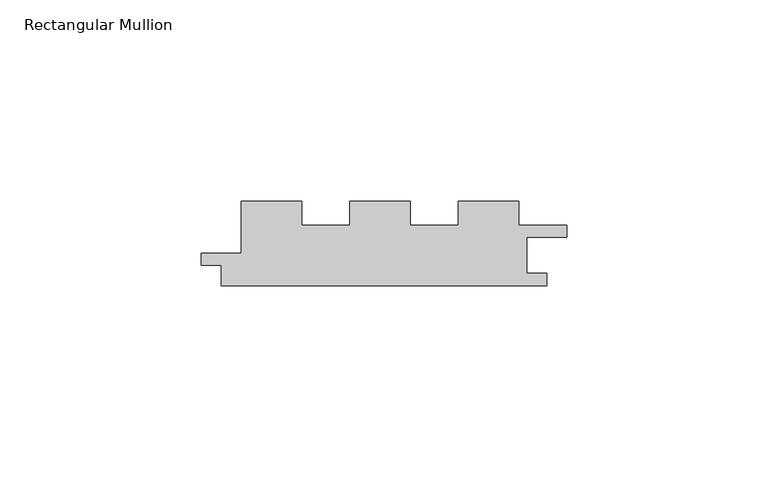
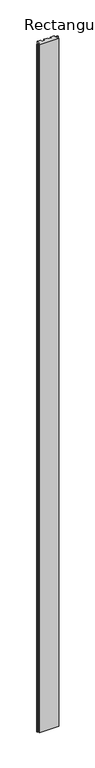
"""IFC4 building model written with IfcOpenShell, lengths in millimetres: member geometry, Rectangular Mullion : Cladding_Timber_Modinex_Castelation_81x21_AlaskanYellowCedar."""

from ifc_helpers import new_model, si_unit, frame, origin, place, context, project, spatial, polyline, outline, extrude, source, transform, mapped, element, save


def rectangular_mullion_624eee80(model_context):
    return source(origin(), model_context, "Body", "SweptSolid", [
        extrude(outline(polyline([(15.0481486, 15.0), (27.0304703, 15.0), (27.0304703, 21.0), (42.0304703, 21.0), (42.0304703, 15.0), (54.0152351, 15.0), (54.0152351, 21.0), (69.0152351, 21.0), (69.0152351, 15.0), (81.0, 15.0), (81.0, 12.0), (71.0, 12.0), (71.0, 3.0), (76.0481486, 3.0), (76.0481486, 0.0), (-4.9518514, 0.0), (-4.9518514, 5.0), (-9.9518514, 5.0), (-9.9518514, 8.0), (0.0, 8.0), (0.0, 21.0), (15.0481486, 21.0), (15.0481486, 15.0)])), frame((0.0, 0.0, -3000.0), z_axis=(0.0, 0.0, 1.0), x_axis=(1.0, 0.0, 0.0)), (0.0, 0.0, 1.0), 3000.0),
    ])


if __name__ == "__main__":
    model = new_model("IFC4")
    model_context = context("Model", 3, world=origin())
    ifc_project = project(units=[si_unit("LENGTHUNIT", "METRE", prefix="MILLI")], contexts=[model_context])
    site = spatial("IfcSite", under=ifc_project)
    building = spatial("IfcBuilding", under=site)
    placement = place(None, origin())
    rectangular_mullion_shape = rectangular_mullion_624eee80(model_context)
    element("IfcMember", 1, ObjectType="Rectangular Mullion : Cladding_Timber_Modinex_Castelation_81x21_AlaskanYellowCedar", at=placement, inside=building, context=model_context, shape_type="MappedRepresentation", body=[
        mapped(rectangular_mullion_shape, transform((0.0, 0.0, 0.0), x_axis=(1.0, 0.0, 0.0), y_axis=(0.0, 1.0, 0.0), z_axis=(0.0, 0.0, 1.0))),
    ])
    save(model, "model.ifc")
